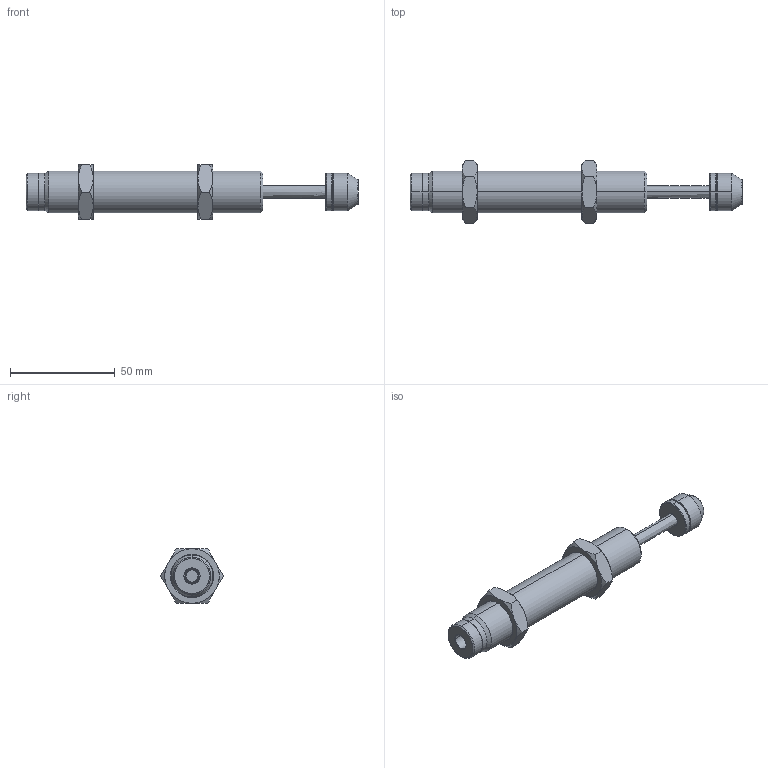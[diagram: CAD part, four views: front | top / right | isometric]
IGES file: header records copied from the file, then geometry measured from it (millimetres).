
Start section: SolidWorks IGES file using analytic representation for surfaces
Global section: file name: D:\IGS跡宒\AC2030.IGS,1; native system: 5HSolidWorks 2013; preprocessor: SolidWorks 2013; author: Administrator; date: 160406.152057; units: inch
Bounding box: 158.3 x 30.02 x 26 mm (x, y, z)
Surface area: 13300.1 mm2 (no closed solid volume)
Topology: 0 solids, 0 shells, 100 faces, 1568 edges, 1568 vertices
Faces by surface type: revolution 76, bspline 24
